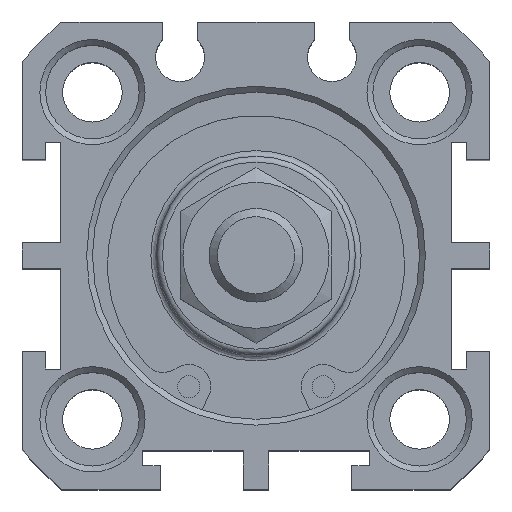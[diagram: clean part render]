
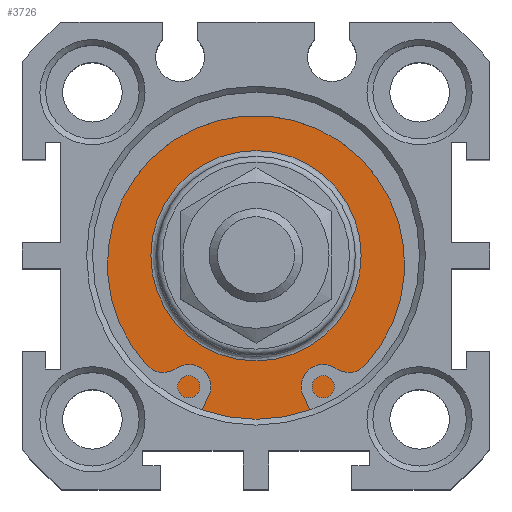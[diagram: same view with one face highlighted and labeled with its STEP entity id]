
A CAD part, top view. The second image highlights one B-rep face of the part: STEP entity #3726.
In plain terms, the highlighted planar face has unit normal (0, 0, 1).
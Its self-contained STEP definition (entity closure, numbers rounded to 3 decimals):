
#3675=CARTESIAN_POINT('',(0.12,10.914,28.3));
#3676=VERTEX_POINT('',#3675);
#3677=CARTESIAN_POINT('',(0.12,1.914,28.3));
#3678=DIRECTION('',(0.0,0.0,1.0));
#3679=DIRECTION('',(0.0,-1.0,0.0));
#3680=AXIS2_PLACEMENT_3D('',#3677,#3678,#3679);
#3681=CIRCLE('',#3680,9.);
#3682=EDGE_CURVE('',#3676,#3676,#3681,.T.);
#3707=CARTESIAN_POINT('',(0.12,13.164,28.3));
#3708=DIRECTION('',(0.0,0.0,1.0));
#3709=DIRECTION('',(1.0,0.0,0.0));
#3710=AXIS2_PLACEMENT_3D('',#3707,#3708,#3709);
#3711=PLANE('',#3710);
#3712=CARTESIAN_POINT('',(0.12,15.914,28.3));
#3713=VERTEX_POINT('',#3712);
#3714=CARTESIAN_POINT('',(0.12,1.914,28.3));
#3715=DIRECTION('',(0.0,0.0,-1.0));
#3716=DIRECTION('',(0.0,1.0,0.0));
#3717=AXIS2_PLACEMENT_3D('',#3714,#3715,#3716);
#3718=CIRCLE('',#3717,14.0);
#3719=EDGE_CURVE('',#3713,#3713,#3718,.T.);
#3720=ORIENTED_EDGE('',*,*,#3719,.F.);
#3721=EDGE_LOOP('',(#3720));
#3722=FACE_OUTER_BOUND('',#3721,.T.);
#3723=ORIENTED_EDGE('',*,*,#3682,.F.);
#3724=EDGE_LOOP('',(#3723));
#3725=FACE_BOUND('',#3724,.T.);
#3726=ADVANCED_FACE('',(#3722,#3725),#3711,.T.);
